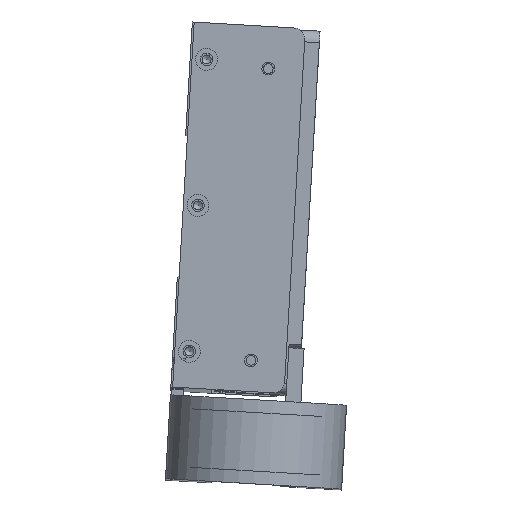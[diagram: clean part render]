
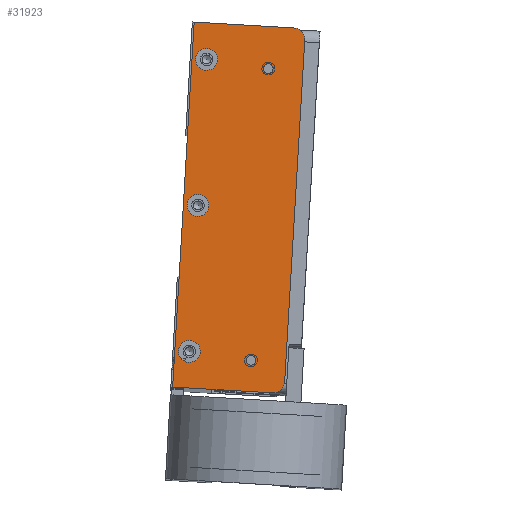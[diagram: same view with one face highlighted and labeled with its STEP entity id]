
A CAD part, top view. The second image highlights one B-rep face of the part: STEP entity #31923.
In plain terms, the highlighted planar face has unit normal (0, 0, 1) as drawn and (0, -1, 0) by its records, which use the part's own axes.
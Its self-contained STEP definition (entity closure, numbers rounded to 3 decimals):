
#962=PLANE($,#34821);
#2280=FACE_BOUND($,#6108,.T.);
#2281=FACE_BOUND($,#6109,.T.);
#2282=FACE_BOUND($,#6110,.T.);
#2283=FACE_BOUND($,#6111,.T.);
#2284=FACE_BOUND($,#6112,.T.);
#2285=FACE_BOUND($,#6113,.T.);
#6108=EDGE_LOOP($,(#25689));
#6109=EDGE_LOOP($,(#25690));
#6110=EDGE_LOOP($,(#25691));
#6111=EDGE_LOOP($,(#25692));
#6112=EDGE_LOOP($,(#25693));
#6113=EDGE_LOOP($,(#25694,#25695,#25696,#25697,#25698,#25699));
#8348=LINE($,#51117,#11013);
#8351=LINE($,#51133,#11016);
#8352=LINE($,#51135,#11017);
#8353=LINE($,#51137,#11018);
#11013=VECTOR($,#41112,93.65);
#11016=VECTOR($,#41127,27.325);
#11017=VECTOR($,#41128,100.);
#11018=VECTOR($,#41129,27.325);
#13750=CIRCLE($,#34818,3.175);
#13752=CIRCLE($,#34822,3.);
#13753=CIRCLE($,#34823,3.);
#13754=CIRCLE($,#34824,3.);
#13755=CIRCLE($,#34825,1.321);
#13756=CIRCLE($,#34826,1.321);
#13757=CIRCLE($,#34827,3.175);
#15717=VERTEX_POINT($,#51107);
#15718=VERTEX_POINT($,#51108);
#15721=VERTEX_POINT($,#51116);
#15723=VERTEX_POINT($,#51122);
#15724=VERTEX_POINT($,#51124);
#15725=VERTEX_POINT($,#51126);
#15726=VERTEX_POINT($,#51128);
#15727=VERTEX_POINT($,#51130);
#15728=VERTEX_POINT($,#51132);
#15729=VERTEX_POINT($,#51134);
#15730=VERTEX_POINT($,#51136);
#19344=EDGE_CURVE($,#15717,#15718,#13750,.T.);
#19348=EDGE_CURVE($,#15718,#15721,#8348,.T.);
#19351=EDGE_CURVE($,#15723,#15723,#13752,.T.);
#19352=EDGE_CURVE($,#15724,#15724,#13753,.T.);
#19353=EDGE_CURVE($,#15725,#15725,#13754,.T.);
#19354=EDGE_CURVE($,#15726,#15726,#13755,.T.);
#19355=EDGE_CURVE($,#15727,#15727,#13756,.T.);
#19356=EDGE_CURVE($,#15717,#15728,#8351,.T.);
#19357=EDGE_CURVE($,#15728,#15729,#8352,.T.);
#19358=EDGE_CURVE($,#15729,#15730,#8353,.T.);
#19359=EDGE_CURVE($,#15721,#15730,#13757,.T.);
#25689=ORIENTED_EDGE($,*,*,#19351,.T.);
#25690=ORIENTED_EDGE($,*,*,#19352,.T.);
#25691=ORIENTED_EDGE($,*,*,#19353,.T.);
#25692=ORIENTED_EDGE($,*,*,#19354,.T.);
#25693=ORIENTED_EDGE($,*,*,#19355,.T.);
#25694=ORIENTED_EDGE($,*,*,#19344,.F.);
#25695=ORIENTED_EDGE($,*,*,#19356,.T.);
#25696=ORIENTED_EDGE($,*,*,#19357,.T.);
#25697=ORIENTED_EDGE($,*,*,#19358,.T.);
#25698=ORIENTED_EDGE($,*,*,#19359,.F.);
#25699=ORIENTED_EDGE($,*,*,#19348,.F.);
#31923=ADVANCED_FACE($,(#2280,#2281,#2282,#2283,#2284,#2285),#962,.T.);
#34818=AXIS2_PLACEMENT_3D($,#51109,#41104,#41105);
#34821=AXIS2_PLACEMENT_3D($,#51121,#41115,#41116);
#34822=AXIS2_PLACEMENT_3D($,#51123,#41117,#41118);
#34823=AXIS2_PLACEMENT_3D($,#51125,#41119,#41120);
#34824=AXIS2_PLACEMENT_3D($,#51127,#41121,#41122);
#34825=AXIS2_PLACEMENT_3D($,#51129,#41123,#41124);
#34826=AXIS2_PLACEMENT_3D($,#51131,#41125,#41126);
#34827=AXIS2_PLACEMENT_3D($,#51138,#41130,#41131);
#41104=DIRECTION('center_axis',(0.,1.,0.));
#41105=DIRECTION('ref_axis',(0.707,0.,0.707));
#41112=DIRECTION($,(0.,0.,-1.));
#41115=DIRECTION('center_axis',(0.,-1.,0.));
#41116=DIRECTION('ref_axis',(0.,0.,-1.));
#41117=DIRECTION('center_axis',(0.,1.,0.));
#41118=DIRECTION('ref_axis',(1.,0.,0.));
#41119=DIRECTION('center_axis',(0.,1.,0.));
#41120=DIRECTION('ref_axis',(1.,0.,0.));
#41121=DIRECTION('center_axis',(0.,1.,0.));
#41122=DIRECTION('ref_axis',(1.,0.,0.));
#41123=DIRECTION('center_axis',(0.,1.,0.));
#41124=DIRECTION('ref_axis',(1.,0.,0.));
#41125=DIRECTION('center_axis',(0.,1.,0.));
#41126=DIRECTION('ref_axis',(1.,0.,0.));
#41127=DIRECTION($,(-1.,0.,0.));
#41128=DIRECTION($,(0.,0.,-1.));
#41129=DIRECTION($,(1.,0.,0.));
#41130=DIRECTION('center_axis',(0.,1.,0.));
#41131=DIRECTION('ref_axis',(0.707,0.,-0.707));
#51107=CARTESIAN_POINT('',(12.075,-2.5,50.));
#51108=CARTESIAN_POINT('',(15.25,-2.5,46.825));
#51109=CARTESIAN_POINT('Origin',(12.075,-2.5,46.825));
#51116=CARTESIAN_POINT('',(15.25,-2.5,-46.825));
#51117=CARTESIAN_POINT($,(15.25,-2.5,0.));
#51121=CARTESIAN_POINT('Origin',(15.25,-2.5,0.));
#51122=CARTESIAN_POINT('',(-8.25,-2.5,0.));
#51123=CARTESIAN_POINT('Origin',(-11.25,-2.5,0.));
#51124=CARTESIAN_POINT('',(-8.25,-2.5,40.));
#51125=CARTESIAN_POINT('Origin',(-11.25,-2.5,40.));
#51126=CARTESIAN_POINT('',(-8.25,-2.5,-40.));
#51127=CARTESIAN_POINT('Origin',(-11.25,-2.5,-40.));
#51128=CARTESIAN_POINT('',(7.071,-2.5,38.5));
#51129=CARTESIAN_POINT('Origin',(5.75,-2.5,38.5));
#51130=CARTESIAN_POINT('',(7.037,-2.5,-41.5));
#51131=CARTESIAN_POINT('Origin',(5.716,-2.5,-41.5));
#51132=CARTESIAN_POINT('',(-15.25,-2.5,50.));
#51133=CARTESIAN_POINT($,(15.25,-2.5,50.));
#51134=CARTESIAN_POINT('',(-15.25,-2.5,-50.));
#51135=CARTESIAN_POINT($,(-15.25,-2.5,0.));
#51136=CARTESIAN_POINT('',(12.075,-2.5,-50.));
#51137=CARTESIAN_POINT($,(15.25,-2.5,-50.));
#51138=CARTESIAN_POINT('Origin',(12.075,-2.5,-46.825));
